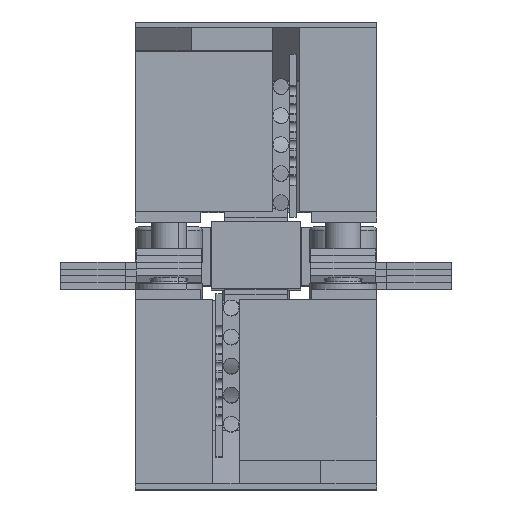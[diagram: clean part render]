
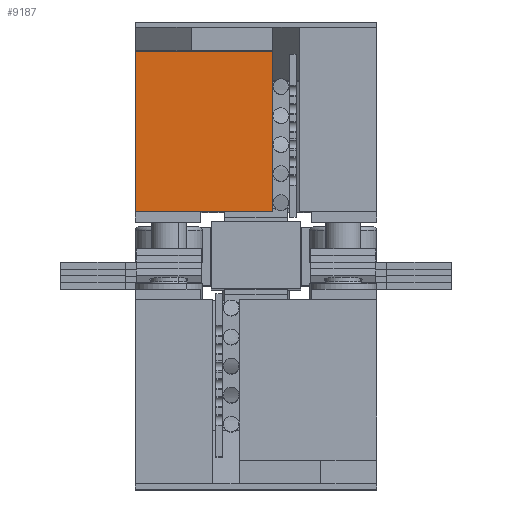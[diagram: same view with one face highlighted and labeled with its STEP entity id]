
A CAD part, top view. The second image highlights one B-rep face of the part: STEP entity #9187.
In plain terms, the highlighted planar face has unit normal (0, 0, 1).
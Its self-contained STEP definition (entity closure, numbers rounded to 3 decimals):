
#1336 = ORIENTED_EDGE ( 'NONE', *, *, #8819, .F. ) ;
#1500 = ORIENTED_EDGE ( 'NONE', *, *, #1564, .T. ) ;
#1564 = EDGE_CURVE ( 'NONE', #5473, #25811, #19144, .T. ) ;
#1856 = DIRECTION ( 'NONE',  ( 0., 0., -1. ) ) ;
#2649 = CARTESIAN_POINT ( 'NONE',  ( -5.4, 9.13, -15.937 ) ) ;
#2683 = DIRECTION ( 'NONE',  ( 1., 0., 0. ) ) ;
#3634 = VERTEX_POINT ( 'NONE', #14977 ) ;
#5316 = EDGE_CURVE ( 'NONE', #13117, #15135, #29029, .T. ) ;
#5473 = VERTEX_POINT ( 'NONE', #19481 ) ;
#5662 = FACE_OUTER_BOUND ( 'NONE', #19227, .T. ) ;
#6513 = VECTOR ( 'NONE', #27111, 1000. ) ;
#6938 = ORIENTED_EDGE ( 'NONE', *, *, #23086, .F. ) ;
#6966 = CARTESIAN_POINT ( 'NONE',  ( 1.95, 1.93, -15.937 ) ) ;
#7047 = VECTOR ( 'NONE', #8499, 1000. ) ;
#7159 = ORIENTED_EDGE ( 'NONE', *, *, #24738, .T. ) ;
#7240 = LINE ( 'NONE', #6966, #14010 ) ;
#8499 = DIRECTION ( 'NONE',  ( 0., 1., 0. ) ) ;
#8819 = EDGE_CURVE ( 'NONE', #13117, #25811, #22420, .T. ) ;
#9187 = ADVANCED_FACE ( 'NONE', ( #5662 ), #13072, .F. ) ;
#9448 = DIRECTION ( 'NONE',  ( 0., -1., 0. ) ) ;
#10878 = VECTOR ( 'NONE', #9448, 1000. ) ;
#11180 = CARTESIAN_POINT ( 'NONE',  ( 0.75, 9.13, -15.937 ) ) ;
#13072 = PLANE ( 'NONE',  #15330 ) ;
#13117 = VERTEX_POINT ( 'NONE', #26927 ) ;
#14010 = VECTOR ( 'NONE', #20634, 1000. ) ;
#14977 = CARTESIAN_POINT ( 'NONE',  ( 0.75, 1.93, -15.937 ) ) ;
#15135 = VERTEX_POINT ( 'NONE', #22395 ) ;
#15330 = AXIS2_PLACEMENT_3D ( 'NONE', #15466, #1856, #17746 ) ;
#15466 = CARTESIAN_POINT ( 'NONE',  ( 1.95, 9.13, -15.937 ) ) ;
#16270 = CARTESIAN_POINT ( 'NONE',  ( 1.95, 9.13, -15.937 ) ) ;
#17091 = VECTOR ( 'NONE', #2683, 1000. ) ;
#17526 = CARTESIAN_POINT ( 'NONE',  ( 0.75, 9.13, -15.937 ) ) ;
#17746 = DIRECTION ( 'NONE',  ( 1., 0., 0. ) ) ;
#17911 = LINE ( 'NONE', #11180, #6513 ) ;
#19144 = LINE ( 'NONE', #22141, #7047 ) ;
#19227 = EDGE_LOOP ( 'NONE', ( #21957, #6938, #7159, #1500, #1336 ) ) ;
#19481 = CARTESIAN_POINT ( 'NONE',  ( 0.75, 8.948, -15.937 ) ) ;
#20634 = DIRECTION ( 'NONE',  ( -1., 0., 0. ) ) ;
#21957 = ORIENTED_EDGE ( 'NONE', *, *, #5316, .T. ) ;
#22141 = CARTESIAN_POINT ( 'NONE',  ( 0.75, 9.13, -15.937 ) ) ;
#22395 = CARTESIAN_POINT ( 'NONE',  ( -5.4, 1.93, -15.937 ) ) ;
#22420 = LINE ( 'NONE', #16270, #17091 ) ;
#23086 = EDGE_CURVE ( 'NONE', #3634, #15135, #7240, .T. ) ;
#24738 = EDGE_CURVE ( 'NONE', #3634, #5473, #17911, .T. ) ;
#25811 = VERTEX_POINT ( 'NONE', #17526 ) ;
#26927 = CARTESIAN_POINT ( 'NONE',  ( -5.4, 9.13, -15.937 ) ) ;
#27111 = DIRECTION ( 'NONE',  ( 0., 1., 0. ) ) ;
#29029 = LINE ( 'NONE', #2649, #10878 ) ;
